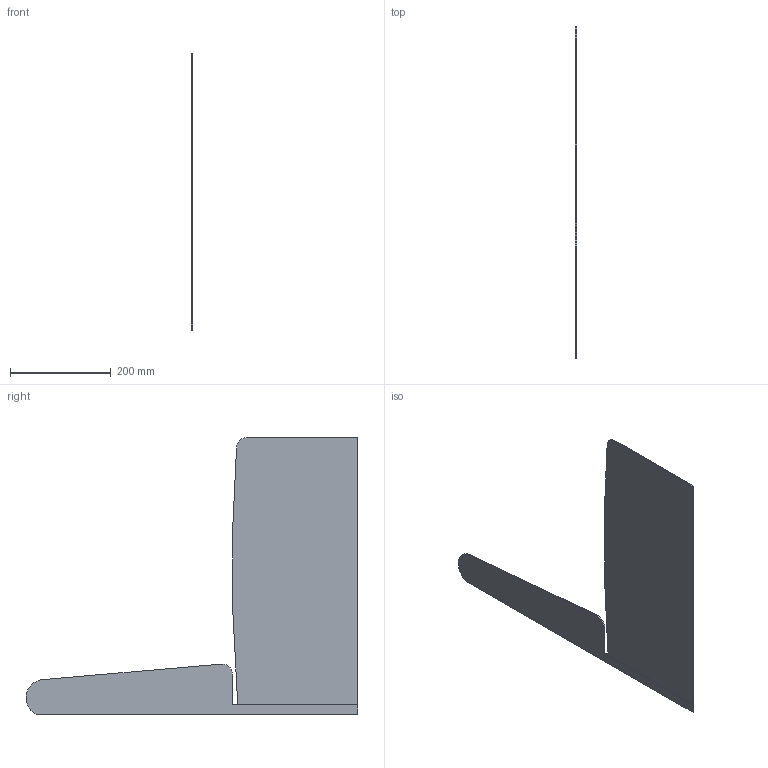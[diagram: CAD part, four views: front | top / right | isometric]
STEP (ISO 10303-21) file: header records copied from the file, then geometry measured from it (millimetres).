
FILE_DESCRIPTION (( 'STEP AP214' ), '1' );
FILE_NAME ('Banquette Lauriane.STEP', '2025-07-24T09:34:24', ( '' ), ( '' ), 'SwSTEP 2.0', 'SolidWorks 2021', '' );
FILE_SCHEMA (( 'AUTOMOTIVE_DESIGN' ));
Length unit declared in the file: millimetre
Products named in the file (1): Banquette Lauriane
Bounding box: 2 x 659.92 x 550 mm (x, y, z)
Volume: 338859.2 mm3; surface area: 344837.6 mm2
Topology: 2 solids, 2 shells, 17 faces, 39 edges, 26 vertices
Faces by surface type: plane 13, cylinder 4
Entity records: 711 total; most frequent: CARTESIAN_POINT 83, DIRECTION 83, ORIENTED_EDGE 78, EDGE_CURVE 39, LINE 31, VECTOR 31, VERTEX_POINT 26, AXIS2_PLACEMENT_3D 26
